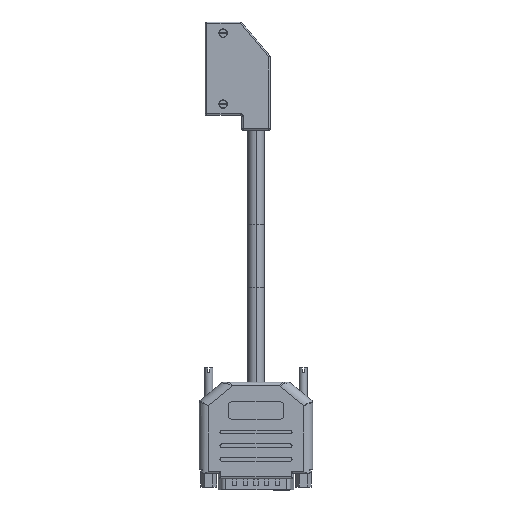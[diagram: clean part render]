
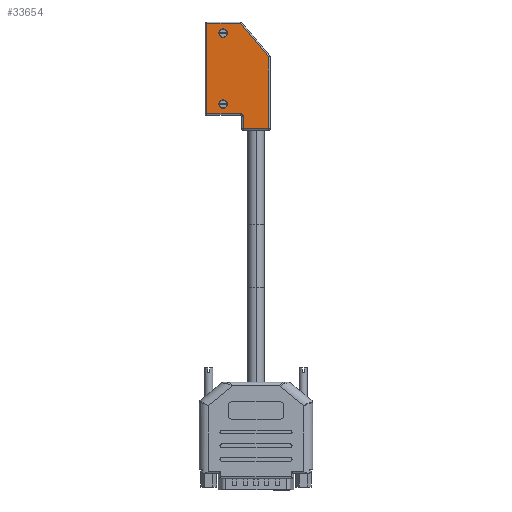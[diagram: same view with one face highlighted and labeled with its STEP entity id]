
A CAD part, top view. The second image highlights one B-rep face of the part: STEP entity #33654.
In plain terms, the highlighted planar face has unit normal (0, 0, 1).
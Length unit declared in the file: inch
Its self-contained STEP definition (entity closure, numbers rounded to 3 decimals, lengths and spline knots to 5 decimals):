
#548 = DIRECTION ( 'NONE',  ( 0., 0., -1. ) ) ;
#1312 = CARTESIAN_POINT ( 'NONE',  ( -3.9315, 1.24623, 2.7958 ) ) ;
#1508 = ORIENTED_EDGE ( 'NONE', *, *, #12776, .T. ) ;
#1672 = EDGE_CURVE ( 'NONE', #15443, #33886, #18908, .T. ) ;
#1685 = VECTOR ( 'NONE', #30804, 39.37008 ) ;
#1941 = CARTESIAN_POINT ( 'NONE',  ( -4.17382, 2.36554, 2.7958 ) ) ;
#1946 = FACE_BOUND ( 'NONE', #21173, .T. ) ;
#2233 = FACE_BOUND ( 'NONE', #24566, .T. ) ;
#2859 = DIRECTION ( 'NONE',  ( 0., 0., -1. ) ) ;
#2957 = ORIENTED_EDGE ( 'NONE', *, *, #16523, .T. ) ;
#3071 = CARTESIAN_POINT ( 'NONE',  ( -3.5415, 2.04384, 2.7958 ) ) ;
#3214 = DIRECTION ( 'NONE',  ( -0.643, 0.766, 0. ) ) ;
#3322 = DIRECTION ( 'NONE',  ( 0., 1., 0. ) ) ;
#3677 = VECTOR ( 'NONE', #3214, 39.37008 ) ;
#4395 = VERTEX_POINT ( 'NONE', #13720 ) ;
#4854 = CARTESIAN_POINT ( 'NONE',  ( -4.42182, 1.02054, 2.7958 ) ) ;
#5616 = EDGE_CURVE ( 'NONE', #32373, #15223, #31338, .T. ) ;
#5949 = DIRECTION ( 'NONE',  ( 0., 1., 0. ) ) ;
#7437 = VECTOR ( 'NONE', #13675, 39.37008 ) ;
#7634 = PLANE ( 'NONE',  #22462 ) ;
#7908 = EDGE_CURVE ( 'NONE', #27091, #32032, #27209, .T. ) ;
#8257 = CARTESIAN_POINT ( 'NONE',  ( -4.40213, 1.24623, 2.7958 ) ) ;
#8426 = DIRECTION ( 'NONE',  ( 0., -1., 0. ) ) ;
#8991 = VECTOR ( 'NONE', #8426, 39.37008 ) ;
#9651 = CIRCLE ( 'NONE', #30839, 0.06 ) ;
#10957 = DIRECTION ( 'NONE',  ( 0., -1., 0. ) ) ;
#11060 = AXIS2_PLACEMENT_3D ( 'NONE', #29885, #548, #5949 ) ;
#11658 = EDGE_CURVE ( 'NONE', #15223, #22835, #17919, .T. ) ;
#12352 = CARTESIAN_POINT ( 'NONE',  ( -4.17382, 2.30554, 2.7958 ) ) ;
#12536 = CARTESIAN_POINT ( 'NONE',  ( -4.40213, 1.24623, 2.7958 ) ) ;
#12776 = EDGE_CURVE ( 'NONE', #34605, #12973, #9651, .T. ) ;
#12899 = CIRCLE ( 'NONE', #11060, 0.06 ) ;
#12973 = VERTEX_POINT ( 'NONE', #12352 ) ;
#13307 = CARTESIAN_POINT ( 'NONE',  ( -4.17382, 1.38154, 2.7958 ) ) ;
#13396 = AXIS2_PLACEMENT_3D ( 'NONE', #13307, #13529, #34790 ) ;
#13529 = DIRECTION ( 'NONE',  ( 0., 0., -1. ) ) ;
#13533 = ORIENTED_EDGE ( 'NONE', *, *, #15822, .T. ) ;
#13675 = DIRECTION ( 'NONE',  ( 0., 1., 0. ) ) ;
#13720 = CARTESIAN_POINT ( 'NONE',  ( -4.17382, 1.32154, 2.7958 ) ) ;
#13748 = FACE_OUTER_BOUND ( 'NONE', #25826, .T. ) ;
#13826 = CARTESIAN_POINT ( 'NONE',  ( -3.89213, 1.04023, 2.7958 ) ) ;
#15223 = VERTEX_POINT ( 'NONE', #13826 ) ;
#15234 = DIRECTION ( 'NONE',  ( 0., 0., -1. ) ) ;
#15443 = VERTEX_POINT ( 'NONE', #12536 ) ;
#15516 = DIRECTION ( 'NONE',  ( 1., 0., 0. ) ) ;
#15665 = ORIENTED_EDGE ( 'NONE', *, *, #7908, .T. ) ;
#15694 = DIRECTION ( 'NONE',  ( 0., -1., 0. ) ) ;
#15822 = EDGE_CURVE ( 'NONE', #29673, #4395, #16037, .T. ) ;
#16037 = CIRCLE ( 'NONE', #13396, 0.06 ) ;
#16339 = ORIENTED_EDGE ( 'NONE', *, *, #31213, .T. ) ;
#16523 = EDGE_CURVE ( 'NONE', #22835, #27091, #30197, .T. ) ;
#16853 = AXIS2_PLACEMENT_3D ( 'NONE', #19397, #2859, #3322 ) ;
#16961 = ORIENTED_EDGE ( 'NONE', *, *, #33296, .F. ) ;
#17919 = LINE ( 'NONE', #20845, #29583 ) ;
#18908 = LINE ( 'NONE', #29301, #19373 ) ;
#19278 = CARTESIAN_POINT ( 'NONE',  ( -3.5415, 2.03668, 2.7958 ) ) ;
#19360 = CARTESIAN_POINT ( 'NONE',  ( -4.17382, 1.44154, 2.7958 ) ) ;
#19373 = VECTOR ( 'NONE', #15516, 39.37008 ) ;
#19397 = CARTESIAN_POINT ( 'NONE',  ( -4.17382, 2.36554, 2.7958 ) ) ;
#20286 = ORIENTED_EDGE ( 'NONE', *, *, #23807, .T. ) ;
#20845 = CARTESIAN_POINT ( 'NONE',  ( -3.52182, 1.04023, 2.7958 ) ) ;
#21173 = EDGE_LOOP ( 'NONE', ( #34246, #1508 ) ) ;
#22462 = AXIS2_PLACEMENT_3D ( 'NONE', #4854, #27004, #15694 ) ;
#22835 = VERTEX_POINT ( 'NONE', #28036 ) ;
#22913 = CARTESIAN_POINT ( 'NONE',  ( -4.42182, 2.50086, 2.7958 ) ) ;
#23032 = VERTEX_POINT ( 'NONE', #23566 ) ;
#23566 = CARTESIAN_POINT ( 'NONE',  ( -4.40213, 2.50086, 2.7958 ) ) ;
#23807 = EDGE_CURVE ( 'NONE', #32032, #23032, #24955, .T. ) ;
#23920 = CIRCLE ( 'NONE', #29068, 0.03937 ) ;
#24566 = EDGE_LOOP ( 'NONE', ( #33740, #13533 ) ) ;
#24717 = CIRCLE ( 'NONE', #16853, 0.06 ) ;
#24955 = LINE ( 'NONE', #22913, #1685 ) ;
#25826 = EDGE_LOOP ( 'NONE', ( #20286, #16339, #29001, #16961, #27382, #27326, #2957, #15665 ) ) ;
#26122 = CARTESIAN_POINT ( 'NONE',  ( -3.89213, 1.20686, 2.7958 ) ) ;
#27004 = DIRECTION ( 'NONE',  ( 0., 0., 1. ) ) ;
#27091 = VERTEX_POINT ( 'NONE', #19278 ) ;
#27209 = LINE ( 'NONE', #30575, #3677 ) ;
#27326 = ORIENTED_EDGE ( 'NONE', *, *, #11658, .T. ) ;
#27352 = VECTOR ( 'NONE', #10957, 39.37008 ) ;
#27382 = ORIENTED_EDGE ( 'NONE', *, *, #5616, .T. ) ;
#27451 = CARTESIAN_POINT ( 'NONE',  ( -4.17382, 2.42554, 2.7958 ) ) ;
#27640 = LINE ( 'NONE', #8257, #27352 ) ;
#28036 = CARTESIAN_POINT ( 'NONE',  ( -3.5415, 1.04023, 2.7958 ) ) ;
#28918 = CARTESIAN_POINT ( 'NONE',  ( -3.9315, 1.20686, 2.7958 ) ) ;
#29001 = ORIENTED_EDGE ( 'NONE', *, *, #1672, .T. ) ;
#29068 = AXIS2_PLACEMENT_3D ( 'NONE', #28918, #29145, #31684 ) ;
#29145 = DIRECTION ( 'NONE',  ( 0., 0., 1. ) ) ;
#29301 = CARTESIAN_POINT ( 'NONE',  ( -3.91182, 1.24623, 2.7958 ) ) ;
#29583 = VECTOR ( 'NONE', #30951, 39.37008 ) ;
#29673 = VERTEX_POINT ( 'NONE', #19360 ) ;
#29885 = CARTESIAN_POINT ( 'NONE',  ( -4.17382, 1.38154, 2.7958 ) ) ;
#30197 = LINE ( 'NONE', #3071, #7437 ) ;
#30575 = CARTESIAN_POINT ( 'NONE',  ( -3.9369, 2.50789, 2.7958 ) ) ;
#30804 = DIRECTION ( 'NONE',  ( -1., 0., 0. ) ) ;
#30839 = AXIS2_PLACEMENT_3D ( 'NONE', #1941, #15234, #32045 ) ;
#30951 = DIRECTION ( 'NONE',  ( 1., 0., 0. ) ) ;
#31213 = EDGE_CURVE ( 'NONE', #23032, #15443, #27640, .T. ) ;
#31338 = LINE ( 'NONE', #32586, #8991 ) ;
#31684 = DIRECTION ( 'NONE',  ( 0., -1., 0. ) ) ;
#32032 = VERTEX_POINT ( 'NONE', #34694 ) ;
#32045 = DIRECTION ( 'NONE',  ( 0., 1., 0. ) ) ;
#32373 = VERTEX_POINT ( 'NONE', #26122 ) ;
#32586 = CARTESIAN_POINT ( 'NONE',  ( -3.89213, 1.02054, 2.7958 ) ) ;
#33296 = EDGE_CURVE ( 'NONE', #32373, #33886, #23920, .T. ) ;
#33419 = EDGE_CURVE ( 'NONE', #4395, #29673, #12899, .T. ) ;
#33654 = ADVANCED_FACE ( 'NONE', ( #13748, #1946, #2233 ), #7634, .T. ) ;
#33693 = EDGE_CURVE ( 'NONE', #12973, #34605, #24717, .T. ) ;
#33740 = ORIENTED_EDGE ( 'NONE', *, *, #33419, .T. ) ;
#33886 = VERTEX_POINT ( 'NONE', #1312 ) ;
#34246 = ORIENTED_EDGE ( 'NONE', *, *, #33693, .T. ) ;
#34605 = VERTEX_POINT ( 'NONE', #27451 ) ;
#34694 = CARTESIAN_POINT ( 'NONE',  ( -3.931, 2.50086, 2.7958 ) ) ;
#34790 = DIRECTION ( 'NONE',  ( 0., 1., 0. ) ) ;
